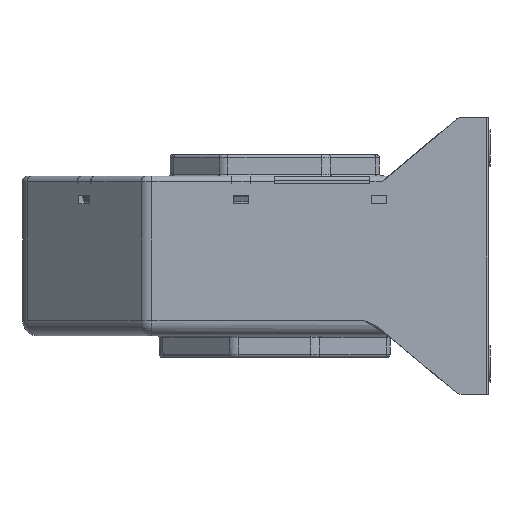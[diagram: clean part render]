
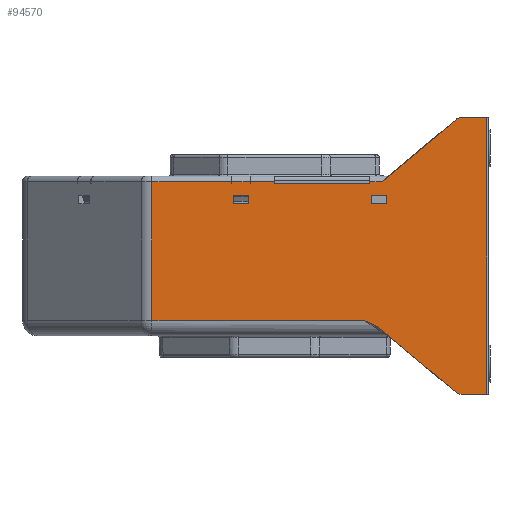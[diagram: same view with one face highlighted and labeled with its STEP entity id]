
A CAD part, left-side view. The second image highlights one B-rep face of the part: STEP entity #94570.
In plain terms, the highlighted planar face has unit normal (-1, 0, 0).
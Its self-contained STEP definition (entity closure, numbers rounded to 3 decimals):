
#12890=CARTESIAN_POINT('',(-75.,-69.,68.));
#12900=VERTEX_POINT('',#12890);
#12930=CARTESIAN_POINT('',(-75.,0.,68.));
#12940=DIRECTION('',(0.,1.,-0.));
#12950=VECTOR('',#12940,1.);
#12960=LINE('',#12930,#12950);
#12970=CARTESIAN_POINT('',(-75.,-60.61,68.));
#12980=VERTEX_POINT('',#12970);
#12990=EDGE_CURVE('',#12900,#12980,#12960,.T.);
#16540=CARTESIAN_POINT('',(-75.,-30.95,46.5));
#16550=VERTEX_POINT('',#16540);
#16580=CARTESIAN_POINT('',(-75.,0.,46.5));
#16590=DIRECTION('',(0.,1.,-0.));
#16600=VECTOR('',#16590,1.);
#16610=LINE('',#16580,#16600);
#16620=CARTESIAN_POINT('',(-75.,0.,46.5));
#16630=VERTEX_POINT('',#16620);
#16640=EDGE_CURVE('',#16550,#16630,#16610,.T.);
#33250=CARTESIAN_POINT('',(-75.,-36.5,0.));
#33260=DIRECTION('',(0.,0.,1.));
#33270=VECTOR('',#33260,1.);
#33280=LINE('',#33250,#33270);
#33290=CARTESIAN_POINT('',(-75.,-36.5,39.95));
#33300=VERTEX_POINT('',#33290);
#33310=CARTESIAN_POINT('',(-75.,-36.5,42.6));
#33320=VERTEX_POINT('',#33310);
#33330=EDGE_CURVE('',#33300,#33320,#33280,.T.);
#33690=CARTESIAN_POINT('',(-75.,8.5,39.95));
#33700=VERTEX_POINT('',#33690);
#33750=CARTESIAN_POINT('',(-75.,0.,39.95));
#33760=DIRECTION('',(0.,1.,-0.));
#33770=VECTOR('',#33760,1.);
#33780=LINE('',#33750,#33770);
#33790=CARTESIAN_POINT('',(-75.,13.5,39.95));
#33800=VERTEX_POINT('',#33790);
#33810=EDGE_CURVE('',#33700,#33800,#33780,.T.);
#34050=CARTESIAN_POINT('',(-75.,0.,42.6));
#34060=DIRECTION('',(0.,1.,0.));
#34070=VECTOR('',#34060,1.);
#34080=LINE('',#34050,#34070);
#34090=CARTESIAN_POINT('',(-75.,-31.5,42.6));
#34100=VERTEX_POINT('',#34090);
#34110=EDGE_CURVE('',#33320,#34100,#34080,.T.);
#38690=CARTESIAN_POINT('',(-75.,8.5,0.));
#38700=DIRECTION('',(0.,0.,1.));
#38710=VECTOR('',#38700,1.);
#38720=LINE('',#38690,#38710);
#38730=CARTESIAN_POINT('',(-75.,8.5,42.6));
#38740=VERTEX_POINT('',#38730);
#38750=EDGE_CURVE('',#33700,#38740,#38720,.T.);
#72340=CARTESIAN_POINT('',(-75.,-31.5,39.95));
#72350=VERTEX_POINT('',#72340);
#72380=CARTESIAN_POINT('',(-75.,-31.5,0.));
#72390=DIRECTION('',(-0.,0.,-1.));
#72400=VECTOR('',#72390,1.);
#72410=LINE('',#72380,#72400);
#72420=EDGE_CURVE('',#34100,#72350,#72410,.T.);
#73840=CARTESIAN_POINT('',(-75.,0.,39.95));
#73850=DIRECTION('',(0.,1.,-0.));
#73860=VECTOR('',#73850,1.);
#73870=LINE('',#73840,#73860);
#73880=EDGE_CURVE('',#33300,#72350,#73870,.T.);
#88340=CARTESIAN_POINT('',(-75.,7.85,46.5));
#88350=VERTEX_POINT('',#88340);
#88380=CARTESIAN_POINT('',(-75.,0.,46.5));
#88390=DIRECTION('',(0.,1.,-0.));
#88400=VECTOR('',#88390,1.);
#88410=LINE('',#88380,#88400);
#88420=CARTESIAN_POINT('',(-75.,7.95,46.5));
#88430=VERTEX_POINT('',#88420);
#88440=EDGE_CURVE('',#88350,#88430,#88410,.T.);
#88570=CARTESIAN_POINT('',(-75.,14.05,46.5));
#88580=VERTEX_POINT('',#88570);
#88610=CARTESIAN_POINT('',(-75.,0.,46.5));
#88620=DIRECTION('',(0.,1.,-0.));
#88630=VECTOR('',#88620,1.);
#88640=LINE('',#88610,#88630);
#88650=CARTESIAN_POINT('',(-75.,14.15,46.5));
#88660=VERTEX_POINT('',#88650);
#88670=EDGE_CURVE('',#88580,#88660,#88640,.T.);
#92670=CARTESIAN_POINT('',(-75.,-71.725,70.252));
#92680=DIRECTION('',(-1.,0.,0.));
#92690=DIRECTION('',(0.,1.,0.));
#92700=AXIS2_PLACEMENT_3D('',#92670,#92680,#92690);
#92710=PLANE('',#92700);
#92720=ORIENTED_EDGE('',*,*,#16640,.T.);
#92730=CARTESIAN_POINT('',(-75.,-30.95,0.));
#92740=DIRECTION('',(0.,0.,-1.));
#92750=VECTOR('',#92740,1.);
#92760=LINE('',#92730,#92750);
#92770=CARTESIAN_POINT('',(-75.,-30.95,47.2));
#92780=VERTEX_POINT('',#92770);
#92790=EDGE_CURVE('',#92780,#16550,#92760,.T.);
#92800=ORIENTED_EDGE('',*,*,#92790,.T.);
#92810=CARTESIAN_POINT('',(-75.,-30.791,47.2));
#92820=DIRECTION('',(0.,-1.,0.));
#92830=VECTOR('',#92820,1.);
#92840=LINE('',#92810,#92830);
#92850=CARTESIAN_POINT('',(-75.,-34.904,47.2));
#92860=VERTEX_POINT('',#92850);
#92870=EDGE_CURVE('',#92780,#92860,#92840,.T.);
#92880=ORIENTED_EDGE('',*,*,#92870,.F.);
#92890=CARTESIAN_POINT('',(-75.,0.,17.921));
#92900=DIRECTION('',(-0.,-0.766,0.643));
#92910=VECTOR('',#92900,1.);
#92920=LINE('',#92890,#92910);
#92930=CARTESIAN_POINT('',(-75.,-59.003,67.415));
#92940=VERTEX_POINT('',#92930);
#92950=EDGE_CURVE('',#92860,#92940,#92920,.T.);
#92960=ORIENTED_EDGE('',*,*,#92950,.F.);
#92970=CARTESIAN_POINT('',(-75.,-60.61,65.5));
#92980=DIRECTION('',(1.,0.,0.));
#92990=DIRECTION('',(0.,-1.,0.));
#93000=AXIS2_PLACEMENT_3D('',#92970,#92980,#92990);
#93010=CIRCLE('',#93000,2.5);
#93020=EDGE_CURVE('',#92940,#12980,#93010,.T.);
#93030=ORIENTED_EDGE('',*,*,#93020,.F.);
#93040=ORIENTED_EDGE('',*,*,#12990,.T.);
#93050=CARTESIAN_POINT('',(-75.,-69.,-22.5));
#93060=DIRECTION('',(0.,0.,1.));
#93070=VECTOR('',#93060,1.);
#93080=LINE('',#93050,#93070);
#93090=CARTESIAN_POINT('',(-75.,-69.,-22.));
#93100=VERTEX_POINT('',#93090);
#93110=EDGE_CURVE('',#93100,#12900,#93080,.T.);
#93120=ORIENTED_EDGE('',*,*,#93110,.T.);
#93130=CARTESIAN_POINT('',(-75.,0.,-22.));
#93140=DIRECTION('',(-0.,1.,0.));
#93150=VECTOR('',#93140,1.);
#93160=LINE('',#93130,#93150);
#93170=CARTESIAN_POINT('',(-75.,-60.61,-22.));
#93180=VERTEX_POINT('',#93170);
#93190=EDGE_CURVE('',#93100,#93180,#93160,.T.);
#93200=ORIENTED_EDGE('',*,*,#93190,.F.);
#93210=CARTESIAN_POINT('',(-75.,-60.61,-19.5));
#93220=DIRECTION('',(1.,0.,0.));
#93230=DIRECTION('',(0.,-1.,0.));
#93240=AXIS2_PLACEMENT_3D('',#93210,#93220,#93230);
#93250=CIRCLE('',#93240,2.5);
#93260=CARTESIAN_POINT('',(-75.,-59.003,-21.415));
#93270=VERTEX_POINT('',#93260);
#93280=EDGE_CURVE('',#93180,#93270,#93250,.T.);
#93290=ORIENTED_EDGE('',*,*,#93280,.F.);
#93300=CARTESIAN_POINT('',(-75.,0.,28.094));
#93310=DIRECTION('',(-0.,0.766,0.643));
#93320=VECTOR('',#93310,1.);
#93330=LINE('',#93300,#93320);
#93340=CARTESIAN_POINT('',(-75.,-34.371,-0.747));
#93350=VERTEX_POINT('',#93340);
#93360=EDGE_CURVE('',#93270,#93350,#93330,.T.);
#93370=ORIENTED_EDGE('',*,*,#93360,.F.);
#93380=CARTESIAN_POINT('',(-75.,-29.234,
1.999));
#93390=CARTESIAN_POINT('',(-75.,-29.289,
1.974));
#93400=CARTESIAN_POINT('',(-75.,-29.401,
1.926));
#93410=CARTESIAN_POINT('',(-75.,-29.624,
1.828));
#93420=CARTESIAN_POINT('',(-75.,-30.015,
1.658));
#93430=CARTESIAN_POINT('',(-75.,-30.794,
1.312));
#93440=CARTESIAN_POINT('',(-75.,-31.677,
0.902));
#93450=CARTESIAN_POINT('',(-75.,-32.543,
0.456));
#93460=CARTESIAN_POINT('',(-75.,-33.179,0.096));
#93470=CARTESIAN_POINT('',(-75.,-33.795,
-0.297));
#93480=CARTESIAN_POINT('',(-75.,-34.185,
-0.59));
#93490=CARTESIAN_POINT('',(-75.,-34.371,-0.747));
#93500=B_SPLINE_CURVE_WITH_KNOTS('',3,(#93380,#93390,#93400,#93410,
#93420,#93430,#93440,#93450,#93460,#93470,#93480,#93490),.UNSPECIFIED.,
.F.,.F.,(4,1,1,1,1,1,1,1,1,4),(0.,0.031,0.063,
0.125,0.25,0.5,0.625,
0.75,0.875,1.),.UNSPECIFIED.);
#93510=CARTESIAN_POINT('',(-75.,-29.234,1.999));
#93520=VERTEX_POINT('',#93510);
#93530=EDGE_CURVE('',#93520,#93350,#93500,.T.);
#93540=ORIENTED_EDGE('',*,*,#93530,.T.);
#93550=CARTESIAN_POINT('',(-75.,40.429,1.999));
#93560=DIRECTION('',(0.,-1.,0.));
#93570=VECTOR('',#93560,1.);
#93580=LINE('',#93550,#93570);
#93590=CARTESIAN_POINT('',(-75.,39.929,1.999));
#93600=VERTEX_POINT('',#93590);
#93610=EDGE_CURVE('',#93600,#93520,#93580,.T.);
#93620=ORIENTED_EDGE('',*,*,#93610,.T.);
#93630=CARTESIAN_POINT('',(-75.,39.929,1.499));
#93640=DIRECTION('',(0.,0.,1.));
#93650=VECTOR('',#93640,1.);
#93660=LINE('',#93630,#93650);
#93670=CARTESIAN_POINT('',(-75.,39.929,47.2));
#93680=VERTEX_POINT('',#93670);
#93690=EDGE_CURVE('',#93600,#93680,#93660,.T.);
#93700=ORIENTED_EDGE('',*,*,#93690,.F.);
#93710=CARTESIAN_POINT('',(-75.,40.429,47.2));
#93720=DIRECTION('',(0.,-1.,0.));
#93730=VECTOR('',#93720,1.);
#93740=LINE('',#93710,#93730);
#93750=CARTESIAN_POINT('',(-75.,14.15,47.2));
#93760=VERTEX_POINT('',#93750);
#93770=EDGE_CURVE('',#93680,#93760,#93740,.T.);
#93780=ORIENTED_EDGE('',*,*,#93770,.F.);
#93790=CARTESIAN_POINT('',(-75.,14.15,0.));
#93800=DIRECTION('',(-0.,-0.,-1.));
#93810=VECTOR('',#93800,1.);
#93820=LINE('',#93790,#93810);
#93830=EDGE_CURVE('',#93760,#88660,#93820,.T.);
#93840=ORIENTED_EDGE('',*,*,#93830,.F.);
#93850=ORIENTED_EDGE('',*,*,#88670,.T.);
#93860=CARTESIAN_POINT('',(-75.,14.05,0.));
#93870=DIRECTION('',(0.,0.,-1.));
#93880=VECTOR('',#93870,1.);
#93890=LINE('',#93860,#93880);
#93900=CARTESIAN_POINT('',(-75.,14.05,47.2));
#93910=VERTEX_POINT('',#93900);
#93920=EDGE_CURVE('',#93910,#88580,#93890,.T.);
#93930=ORIENTED_EDGE('',*,*,#93920,.T.);
#93940=CARTESIAN_POINT('',(-75.,7.795,47.2));
#93950=DIRECTION('',(0.,1.,0.));
#93960=VECTOR('',#93950,1.);
#93970=LINE('',#93940,#93960);
#93980=CARTESIAN_POINT('',(-75.,7.95,47.2));
#93990=VERTEX_POINT('',#93980);
#94000=EDGE_CURVE('',#93990,#93910,#93970,.T.);
#94010=ORIENTED_EDGE('',*,*,#94000,.T.);
#94020=CARTESIAN_POINT('',(-75.,7.95,0.));
#94030=DIRECTION('',(0.,0.,1.));
#94040=VECTOR('',#94030,1.);
#94050=LINE('',#94020,#94040);
#94060=EDGE_CURVE('',#88430,#93990,#94050,.T.);
#94070=ORIENTED_EDGE('',*,*,#94060,.T.);
#94080=ORIENTED_EDGE('',*,*,#88440,.T.);
#94090=CARTESIAN_POINT('',(-75.,7.85,0.));
#94100=DIRECTION('',(-0.,-0.,1.));
#94110=VECTOR('',#94100,1.);
#94120=LINE('',#94090,#94110);
#94130=CARTESIAN_POINT('',(-75.,7.85,47.2));
#94140=VERTEX_POINT('',#94130);
#94150=EDGE_CURVE('',#88350,#94140,#94120,.T.);
#94160=ORIENTED_EDGE('',*,*,#94150,.F.);
#94170=CARTESIAN_POINT('',(-75.,8.048,47.2));
#94180=DIRECTION('',(0.,-1.,0.));
#94190=VECTOR('',#94180,1.);
#94200=LINE('',#94170,#94190);
#94210=CARTESIAN_POINT('',(-75.,0.,47.2));
#94220=VERTEX_POINT('',#94210);
#94230=EDGE_CURVE('',#94140,#94220,#94200,.T.);
#94240=ORIENTED_EDGE('',*,*,#94230,.F.);
#94250=CARTESIAN_POINT('',(-75.,-0.,0.));
#94260=DIRECTION('',(0.,0.,1.));
#94270=VECTOR('',#94260,1.);
#94280=LINE('',#94250,#94270);
#94290=EDGE_CURVE('',#16630,#94220,#94280,.T.);
#94300=ORIENTED_EDGE('',*,*,#94290,.T.);
#94310=EDGE_LOOP('',(#94300,#94240,#94160,#94080,#94070,#94010,#93930,
#93850,#93840,#93780,#93700,#93620,#93540,#93370,#93290,#93200,#93120,
#93040,#93030,#92960,#92880,#92800,#92720));
#94320=FACE_OUTER_BOUND('',#94310,.T.);
#94330=ORIENTED_EDGE('',*,*,#72420,.F.);
#94340=ORIENTED_EDGE('',*,*,#73880,.T.);
#94350=ORIENTED_EDGE('',*,*,#33330,.F.);
#94360=ORIENTED_EDGE('',*,*,#34110,.F.);
#94370=EDGE_LOOP('',(#94360,#94350,#94340,#94330));
#94380=FACE_BOUND('',#94370,.T.);
#94390=CARTESIAN_POINT('',(-75.,0.,42.6));
#94400=DIRECTION('',(-0.,1.,0.));
#94410=VECTOR('',#94400,1.);
#94420=LINE('',#94390,#94410);
#94430=CARTESIAN_POINT('',(-75.,13.5,42.6));
#94440=VERTEX_POINT('',#94430);
#94450=EDGE_CURVE('',#38740,#94440,#94420,.T.);
#94460=ORIENTED_EDGE('',*,*,#94450,.F.);
#94470=CARTESIAN_POINT('',(-75.,13.5,0.));
#94480=DIRECTION('',(-0.,-0.,-1.));
#94490=VECTOR('',#94480,1.);
#94500=LINE('',#94470,#94490);
#94510=EDGE_CURVE('',#94440,#33800,#94500,.T.);
#94520=ORIENTED_EDGE('',*,*,#94510,.F.);
#94530=ORIENTED_EDGE('',*,*,#33810,.T.);
#94540=ORIENTED_EDGE('',*,*,#38750,.F.);
#94550=EDGE_LOOP('',(#94540,#94530,#94520,#94460));
#94560=FACE_BOUND('',#94550,.T.);
#94570=ADVANCED_FACE('',(#94320,#94380,#94560),#92710,.T.);
